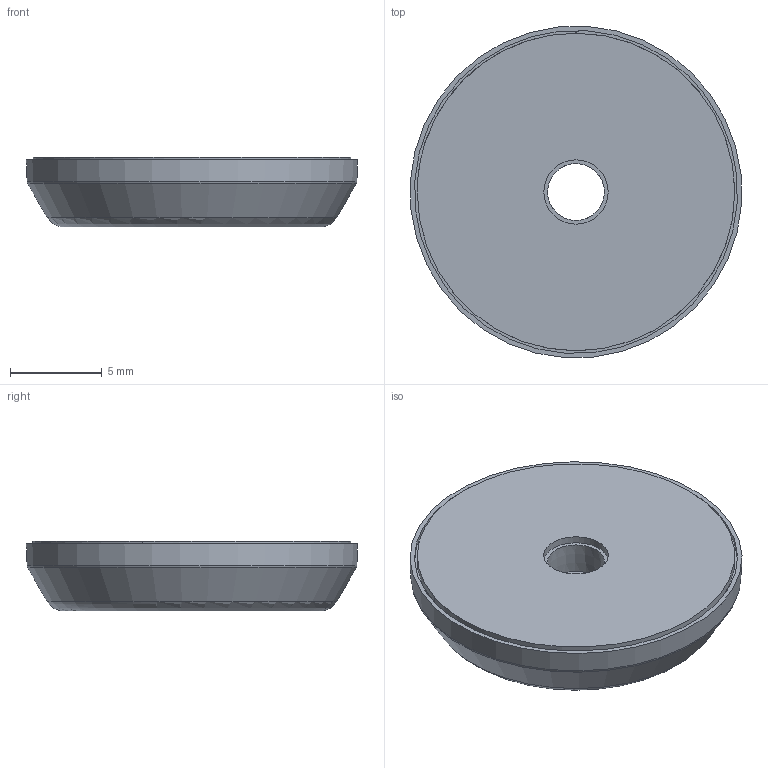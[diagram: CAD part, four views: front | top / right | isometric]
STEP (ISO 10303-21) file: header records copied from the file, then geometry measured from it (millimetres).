
FILE_DESCRIPTION(/* description */ (''),/* implementation_level */ '2;1');
FILE_NAME(/* name */ 'C:\_Vault\Workspace\Projektordner\03-Sensoren\04-NSC\16-PSENcs_low_profile\03-Kundendaten\2027929_A_PSEN_cs_screw_actuator.stp',/* time_stamp */ '2020-03-18T12:06:48+01:00',/* author */ ('prim'),/* organization */ (''),/* preprocessor_version */ 'ST-DEVELOPER v18',/* originating_system */ 'Autodesk Inventor 2020',/* authorisation */ '');
FILE_SCHEMA (('AUTOMOTIVE_DESIGN { 1 0 10303 214 3 1 1 }'));
Length unit declared in the file: millimetre
Products named in the file (1): 2027929
Bounding box: 18.04 x 18.04 x 3.81 mm (x, y, z)
Volume: 823.4 mm3; surface area: 700.9 mm2
Topology: 1 solids, 1 shells, 54 faces, 138 edges, 93 vertices
Faces by surface type: plane 38, cylinder 9, cone 4, torus 3
Full cylindrical faces by diameter (mm): 3.5 x1, 17.3 x1, 17.6 x1
Entity records: 1743 total; most frequent: CARTESIAN_POINT 336, DIRECTION 281, ORIENTED_EDGE 276, EDGE_CURVE 138, LINE 97, VECTOR 97, VERTEX_POINT 93, AXIS2_PLACEMENT_3D 92
